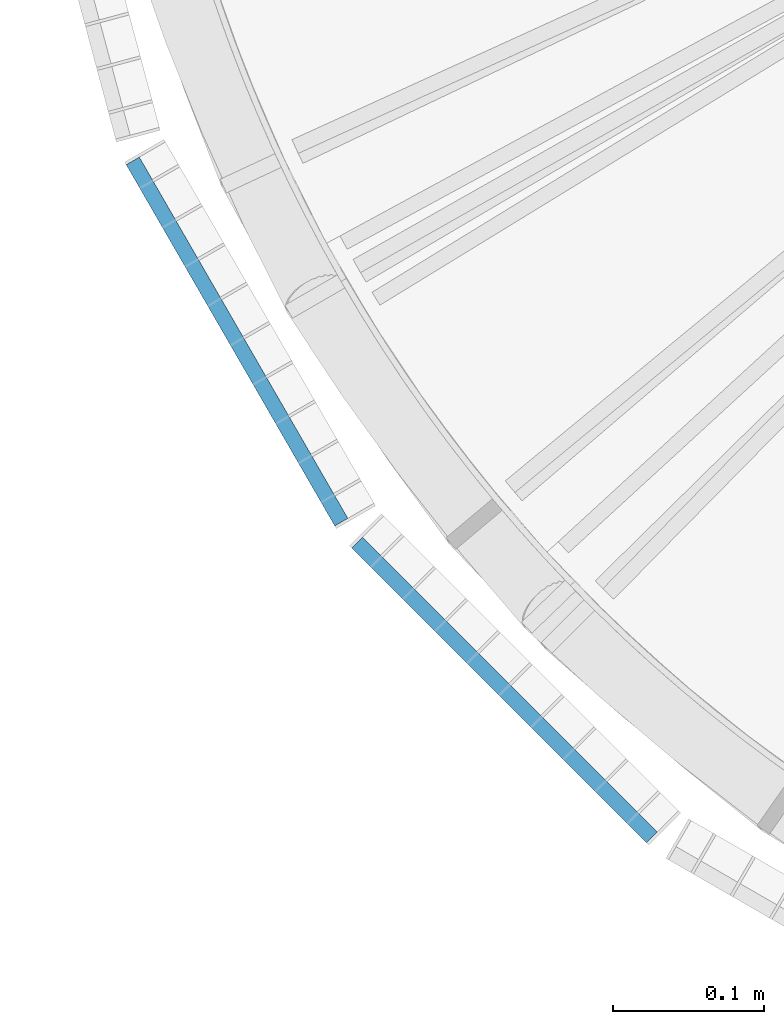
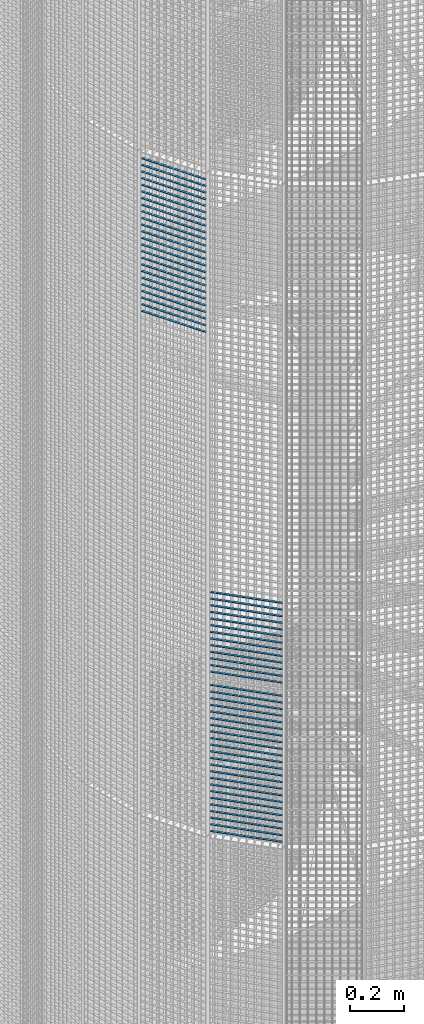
# One storey, part 109 of 1148: 60 beams, 2 elements without a shape of their own.
"""IFC2X3 building model written with IfcOpenShell, lengths in millimetres."""

from ifc_helpers import new_model, si_unit, frame, origin_with_axes, origin_2d_with_axis, place, context, subcontext, project, spatial, rectangle, extrude, material, type_object, element, aggregate, save


model = new_model("IFC2X3")

# Units and contexts
model_context = context("Model", 3, precision=1e-05, world=origin_with_axes())
body_context = subcontext(model_context, "Body", "Model", "MODEL_VIEW")
ifc_project = project(units=[si_unit("LENGTHUNIT", "METRE", prefix="MILLI"), si_unit("AREAUNIT", "SQUARE_METRE"), si_unit("VOLUMEUNIT", "CUBIC_METRE"), si_unit("MASSUNIT", "GRAM", prefix="KILO"), si_unit("TIMEUNIT", "SECOND"), si_unit("PLANEANGLEUNIT", "RADIAN"), si_unit("SOLIDANGLEUNIT", "STERADIAN"), si_unit("THERMODYNAMICTEMPERATUREUNIT", "DEGREE_CELSIUS"), si_unit("LUMINOUSINTENSITYUNIT", "LUMEN")], contexts=[model_context])

# Site, building, storey
site_placement = place(None, origin_with_axes())
site = spatial("IfcSite", under=ifc_project, at=site_placement, Name="Undefined", CompositionType="ELEMENT")
building_placement = place(site_placement, origin_with_axes())
building = spatial("IfcBuilding", under=site, at=building_placement, Name="Undefined", CompositionType="ELEMENT")
storey_placement = place(building_placement, origin_with_axes())
storey = spatial("IfcBuildingStorey", under=building, at=storey_placement, Name="Undefined", CompositionType="ELEMENT", Elevation=0.0)

# Assembly, beams
assembly_1_placement = place(storey_placement, origin_with_axes())
assembly_1 = element("IfcElementAssembly", 1, at=assembly_1_placement, inside=storey, Name="BORDURE", AssemblyPlace="NOTDEFINED", PredefinedType="NOTDEFINED")
ifc_material = material(Name="STEEL/S235JR")
beam_type = type_object("IfcBeamType", Name="PL2*10", PredefinedType="NOTDEFINED")
beam_1_placement = place(assembly_1_placement, frame((-884.927168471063, -689.771348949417, 12690.0), z_axis=(-0.70710678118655, -0.707106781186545, 0.0), x_axis=(0.707106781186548, -0.707106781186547, 0.0)))
beam_1 = element("IfcBeam", 2, at=beam_1_placement, type_object=beam_type, material=ifc_material, Name="ENTRETOISE", context=body_context, shape_type="SweptSolid", body=[
    extrude(rectangle(XDim=2.0, YDim=10.0, at=origin_2d_with_axis()), frame((275.999999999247, 9.09494701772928e-13, 1.53210777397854e-14), z_axis=(-1.0, 0.0, 0.0), x_axis=(0.0, -1.0, 0.0)), (0.0, 0.0, 1.0), 276.0),
])
beam_2_placement = place(assembly_1_placement, frame((-884.927168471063, -689.771348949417, 12750.0), z_axis=(-0.70710678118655, -0.707106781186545, 0.0), x_axis=(0.707106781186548, -0.707106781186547, 0.0)))
beam_2 = element("IfcBeam", 3, at=beam_2_placement, type_object=beam_type, material=ifc_material, Name="ENTRETOISE", context=body_context, shape_type="SweptSolid", body=[
    extrude(rectangle(XDim=2.0, YDim=10.0, at=origin_2d_with_axis()), frame((275.999999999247, 9.09494701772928e-13, 1.53210777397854e-14), z_axis=(-1.0, 0.0, 0.0), x_axis=(0.0, -1.0, 0.0)), (0.0, 0.0, 1.0), 276.0),
])
beam_3_placement = place(assembly_1_placement, frame((-884.927168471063, -689.771348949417, 12660.0), z_axis=(-0.70710678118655, -0.707106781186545, 0.0), x_axis=(0.707106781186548, -0.707106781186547, 0.0)))
beam_3 = element("IfcBeam", 4, at=beam_3_placement, type_object=beam_type, material=ifc_material, Name="ENTRETOISE", context=body_context, shape_type="SweptSolid", body=[
    extrude(rectangle(XDim=2.0, YDim=10.0, at=origin_2d_with_axis()), frame((275.999999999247, 9.09494701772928e-13, 1.53210777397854e-14), z_axis=(-1.0, 0.0, 0.0), x_axis=(0.0, -1.0, 0.0)), (0.0, 0.0, 1.0), 276.0),
])
beam_4_placement = place(assembly_1_placement, frame((-884.927168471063, -689.771348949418, 12630.0), z_axis=(-0.70710678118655, -0.707106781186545, 0.0), x_axis=(0.707106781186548, -0.707106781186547, 0.0)))
beam_4 = element("IfcBeam", 5, at=beam_4_placement, type_object=beam_type, material=ifc_material, Name="ENTRETOISE", context=body_context, shape_type="SweptSolid", body=[
    extrude(rectangle(XDim=2.0, YDim=10.0, at=origin_2d_with_axis()), frame((275.999999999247, 9.09494701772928e-13, 1.53210777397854e-14), z_axis=(-1.0, 0.0, 0.0), x_axis=(0.0, -1.0, 0.0)), (0.0, 0.0, 1.0), 276.0),
])
beam_5_placement = place(assembly_1_placement, frame((-884.927168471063, -689.771348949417, 12780.0), z_axis=(-0.70710678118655, -0.707106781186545, 0.0), x_axis=(0.707106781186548, -0.707106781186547, 0.0)))
beam_5 = element("IfcBeam", 6, at=beam_5_placement, type_object=beam_type, material=ifc_material, Name="ENTRETOISE", context=body_context, shape_type="SweptSolid", body=[
    extrude(rectangle(XDim=2.0, YDim=10.0, at=origin_2d_with_axis()), frame((275.999999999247, 9.09494701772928e-13, 1.53210777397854e-14), z_axis=(-1.0, 0.0, 0.0), x_axis=(0.0, -1.0, 0.0)), (0.0, 0.0, 1.0), 276.0),
])
beam_6_placement = place(assembly_1_placement, frame((-884.927168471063, -689.771348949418, 12600.0), z_axis=(-0.70710678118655, -0.707106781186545, 0.0), x_axis=(0.707106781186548, -0.707106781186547, 0.0)))
beam_6 = element("IfcBeam", 7, at=beam_6_placement, type_object=beam_type, material=ifc_material, Name="ENTRETOISE", context=body_context, shape_type="SweptSolid", body=[
    extrude(rectangle(XDim=2.0, YDim=10.0, at=origin_2d_with_axis()), frame((275.999999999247, 9.09494701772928e-13, 1.53210777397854e-14), z_axis=(-1.0, 0.0, 0.0), x_axis=(0.0, -1.0, 0.0)), (0.0, 0.0, 1.0), 276.0),
])
beam_7_placement = place(assembly_1_placement, frame((-884.927168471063, -689.771348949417, 12810.0), z_axis=(-0.70710678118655, -0.707106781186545, 0.0), x_axis=(0.707106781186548, -0.707106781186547, 0.0)))
beam_7 = element("IfcBeam", 8, at=beam_7_placement, type_object=beam_type, material=ifc_material, Name="ENTRETOISE", context=body_context, shape_type="SweptSolid", body=[
    extrude(rectangle(XDim=2.0, YDim=10.0, at=origin_2d_with_axis()), frame((275.999999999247, 9.09494701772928e-13, 1.53210777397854e-14), z_axis=(-1.0, 0.0, 0.0), x_axis=(0.0, -1.0, 0.0)), (0.0, 0.0, 1.0), 276.0),
])
beam_8_placement = place(assembly_1_placement, frame((-884.927168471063, -689.771348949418, 12570.0), z_axis=(-0.70710678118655, -0.707106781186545, 0.0), x_axis=(0.707106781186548, -0.707106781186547, 0.0)))
beam_8 = element("IfcBeam", 9, at=beam_8_placement, type_object=beam_type, material=ifc_material, Name="ENTRETOISE", context=body_context, shape_type="SweptSolid", body=[
    extrude(rectangle(XDim=2.0, YDim=10.0, at=origin_2d_with_axis()), frame((275.999999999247, 9.09494701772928e-13, 1.53210777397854e-14), z_axis=(-1.0, 0.0, 0.0), x_axis=(0.0, -1.0, 0.0)), (0.0, 0.0, 1.0), 276.0),
])
beam_9_placement = place(assembly_1_placement, frame((-884.927168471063, -689.771348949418, 12540.0), z_axis=(-0.70710678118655, -0.707106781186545, 0.0), x_axis=(0.707106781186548, -0.707106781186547, 0.0)))
beam_9 = element("IfcBeam", 10, at=beam_9_placement, type_object=beam_type, material=ifc_material, Name="ENTRETOISE", context=body_context, shape_type="SweptSolid", body=[
    extrude(rectangle(XDim=2.0, YDim=10.0, at=origin_2d_with_axis()), frame((275.999999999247, 9.09494701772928e-13, 1.53210777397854e-14), z_axis=(-1.0, 0.0, 0.0), x_axis=(0.0, -1.0, 0.0)), (0.0, 0.0, 1.0), 276.0),
])
beam_10_placement = place(assembly_1_placement, frame((-884.927168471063, -689.771348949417, 12840.0), z_axis=(-0.70710678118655, -0.707106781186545, 0.0), x_axis=(0.707106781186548, -0.707106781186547, 0.0)))
beam_10 = element("IfcBeam", 11, at=beam_10_placement, type_object=beam_type, material=ifc_material, Name="ENTRETOISE", context=body_context, shape_type="SweptSolid", body=[
    extrude(rectangle(XDim=2.0, YDim=10.0, at=origin_2d_with_axis()), frame((275.999999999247, 9.09494701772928e-13, 1.53210777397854e-14), z_axis=(-1.0, 0.0, 0.0), x_axis=(0.0, -1.0, 0.0)), (0.0, 0.0, 1.0), 276.0),
])
beam_11_placement = place(assembly_1_placement, frame((-884.927168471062, -689.771348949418, 12510.0), z_axis=(-0.70710678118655, -0.707106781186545, 0.0), x_axis=(0.707106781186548, -0.707106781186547, 0.0)))
beam_11 = element("IfcBeam", 12, at=beam_11_placement, type_object=beam_type, material=ifc_material, Name="ENTRETOISE", context=body_context, shape_type="SweptSolid", body=[
    extrude(rectangle(XDim=2.0, YDim=10.0, at=origin_2d_with_axis()), frame((275.999999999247, 9.09494701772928e-13, 1.53210777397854e-14), z_axis=(-1.0, 0.0, 0.0), x_axis=(0.0, -1.0, 0.0)), (0.0, 0.0, 1.0), 276.0),
])
beam_12_placement = place(assembly_1_placement, frame((-884.927168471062, -689.771348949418, 12480.0), z_axis=(-0.70710678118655, -0.707106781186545, 0.0), x_axis=(0.707106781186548, -0.707106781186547, 0.0)))
beam_12 = element("IfcBeam", 13, at=beam_12_placement, type_object=beam_type, material=ifc_material, Name="ENTRETOISE", context=body_context, shape_type="SweptSolid", body=[
    extrude(rectangle(XDim=2.0, YDim=10.0, at=origin_2d_with_axis()), frame((275.999999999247, 9.09494701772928e-13, 1.53210777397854e-14), z_axis=(-1.0, 0.0, 0.0), x_axis=(0.0, -1.0, 0.0)), (0.0, 0.0, 1.0), 276.0),
])
beam_13_placement = place(assembly_1_placement, frame((-884.927168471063, -689.771348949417, 12870.0), z_axis=(-0.70710678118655, -0.707106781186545, 0.0), x_axis=(0.707106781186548, -0.707106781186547, 0.0)))
beam_13 = element("IfcBeam", 14, at=beam_13_placement, type_object=beam_type, material=ifc_material, Name="ENTRETOISE", context=body_context, shape_type="SweptSolid", body=[
    extrude(rectangle(XDim=2.0, YDim=10.0, at=origin_2d_with_axis()), frame((275.999999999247, 9.09494701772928e-13, 1.53210777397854e-14), z_axis=(-1.0, 0.0, 0.0), x_axis=(0.0, -1.0, 0.0)), (0.0, 0.0, 1.0), 276.0),
])
beam_14_placement = place(assembly_1_placement, frame((-884.927168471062, -689.771348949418, 12450.0), z_axis=(-0.70710678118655, -0.707106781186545, 0.0), x_axis=(0.707106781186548, -0.707106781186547, 0.0)))
beam_14 = element("IfcBeam", 15, at=beam_14_placement, type_object=beam_type, material=ifc_material, Name="ENTRETOISE", context=body_context, shape_type="SweptSolid", body=[
    extrude(rectangle(XDim=2.0, YDim=10.0, at=origin_2d_with_axis()), frame((275.999999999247, 9.09494701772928e-13, 1.53210777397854e-14), z_axis=(-1.0, 0.0, 0.0), x_axis=(0.0, -1.0, 0.0)), (0.0, 0.0, 1.0), 276.0),
])
beam_15_placement = place(assembly_1_placement, frame((-884.927168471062, -689.771348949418, 12420.0), z_axis=(-0.70710678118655, -0.707106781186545, 0.0), x_axis=(0.707106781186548, -0.707106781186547, 0.0)))
beam_15 = element("IfcBeam", 16, at=beam_15_placement, type_object=beam_type, material=ifc_material, Name="ENTRETOISE", context=body_context, shape_type="SweptSolid", body=[
    extrude(rectangle(XDim=2.0, YDim=10.0, at=origin_2d_with_axis()), frame((275.999999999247, 9.09494701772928e-13, 1.53210777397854e-14), z_axis=(-1.0, 0.0, 0.0), x_axis=(0.0, -1.0, 0.0)), (0.0, 0.0, 1.0), 276.0),
])
beam_16_placement = place(assembly_1_placement, frame((-884.927168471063, -689.771348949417, 12900.0), z_axis=(-0.70710678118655, -0.707106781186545, 0.0), x_axis=(0.707106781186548, -0.707106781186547, 0.0)))
beam_16 = element("IfcBeam", 17, at=beam_16_placement, type_object=beam_type, material=ifc_material, Name="ENTRETOISE", context=body_context, shape_type="SweptSolid", body=[
    extrude(rectangle(XDim=2.0, YDim=10.0, at=origin_2d_with_axis()), frame((275.999999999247, 9.09494701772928e-13, 1.53210777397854e-14), z_axis=(-1.0, 0.0, 0.0), x_axis=(0.0, -1.0, 0.0)), (0.0, 0.0, 1.0), 276.0),
])
beam_17_placement = place(assembly_1_placement, frame((-884.927168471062, -689.771348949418, 12390.0), z_axis=(-0.70710678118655, -0.707106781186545, 0.0), x_axis=(0.707106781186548, -0.707106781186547, 0.0)))
beam_17 = element("IfcBeam", 18, at=beam_17_placement, type_object=beam_type, material=ifc_material, Name="ENTRETOISE", context=body_context, shape_type="SweptSolid", body=[
    extrude(rectangle(XDim=2.0, YDim=10.0, at=origin_2d_with_axis()), frame((275.999999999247, 9.09494701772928e-13, 1.53210777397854e-14), z_axis=(-1.0, 0.0, 0.0), x_axis=(0.0, -1.0, 0.0)), (0.0, 0.0, 1.0), 276.0),
])
beam_18_placement = place(assembly_1_placement, frame((-884.927168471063, -689.771348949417, 12930.0), z_axis=(-0.70710678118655, -0.707106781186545, 0.0), x_axis=(0.707106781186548, -0.707106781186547, 0.0)))
beam_18 = element("IfcBeam", 19, at=beam_18_placement, type_object=beam_type, material=ifc_material, Name="ENTRETOISE", context=body_context, shape_type="SweptSolid", body=[
    extrude(rectangle(XDim=2.0, YDim=10.0, at=origin_2d_with_axis()), frame((275.999999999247, 9.09494701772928e-13, 1.53210777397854e-14), z_axis=(-1.0, 0.0, 0.0), x_axis=(0.0, -1.0, 0.0)), (0.0, 0.0, 1.0), 276.0),
])
beam_19_placement = place(assembly_1_placement, frame((-884.927168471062, -689.771348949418, 12360.0), z_axis=(-0.70710678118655, -0.707106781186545, 0.0), x_axis=(0.707106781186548, -0.707106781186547, 0.0)))
beam_19 = element("IfcBeam", 20, at=beam_19_placement, type_object=beam_type, material=ifc_material, Name="ENTRETOISE", context=body_context, shape_type="SweptSolid", body=[
    extrude(rectangle(XDim=2.0, YDim=10.0, at=origin_2d_with_axis()), frame((275.999999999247, 9.09494701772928e-13, 1.53210777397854e-14), z_axis=(-1.0, 0.0, 0.0), x_axis=(0.0, -1.0, 0.0)), (0.0, 0.0, 1.0), 276.0),
])
beam_20_placement = place(assembly_1_placement, frame((-884.927168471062, -689.771348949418, 12330.0), z_axis=(-0.70710678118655, -0.707106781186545, 0.0), x_axis=(0.707106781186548, -0.707106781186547, 0.0)))
beam_20 = element("IfcBeam", 21, at=beam_20_placement, type_object=beam_type, material=ifc_material, Name="ENTRETOISE", context=body_context, shape_type="SweptSolid", body=[
    extrude(rectangle(XDim=2.0, YDim=10.0, at=origin_2d_with_axis()), frame((275.999999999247, 9.09494701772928e-13, 1.53210777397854e-14), z_axis=(-1.0, 0.0, 0.0), x_axis=(0.0, -1.0, 0.0)), (0.0, 0.0, 1.0), 276.0),
])
beam_21_placement = place(assembly_1_placement, frame((-884.927168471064, -689.771348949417, 12960.0), z_axis=(-0.70710678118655, -0.707106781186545, 0.0), x_axis=(0.707106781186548, -0.707106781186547, 0.0)))
beam_21 = element("IfcBeam", 22, at=beam_21_placement, type_object=beam_type, material=ifc_material, Name="ENTRETOISE", context=body_context, shape_type="SweptSolid", body=[
    extrude(rectangle(XDim=2.0, YDim=10.0, at=origin_2d_with_axis()), frame((275.999999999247, 9.09494701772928e-13, 1.53210777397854e-14), z_axis=(-1.0, 0.0, 0.0), x_axis=(0.0, -1.0, 0.0)), (0.0, 0.0, 1.0), 276.0),
])
beam_22_placement = place(assembly_1_placement, frame((-884.927168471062, -689.771348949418, 12300.0), z_axis=(-0.70710678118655, -0.707106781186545, 0.0), x_axis=(0.707106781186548, -0.707106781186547, 0.0)))
beam_22 = element("IfcBeam", 23, at=beam_22_placement, type_object=beam_type, material=ifc_material, Name="ENTRETOISE", context=body_context, shape_type="SweptSolid", body=[
    extrude(rectangle(XDim=2.0, YDim=10.0, at=origin_2d_with_axis()), frame((275.999999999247, 9.09494701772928e-13, 1.53210777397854e-14), z_axis=(-1.0, 0.0, 0.0), x_axis=(0.0, -1.0, 0.0)), (0.0, 0.0, 1.0), 276.0),
])
beam_23_placement = place(assembly_1_placement, frame((-884.927168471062, -689.771348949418, 12270.0), z_axis=(-0.70710678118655, -0.707106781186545, 0.0), x_axis=(0.707106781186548, -0.707106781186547, 0.0)))
beam_23 = element("IfcBeam", 24, at=beam_23_placement, type_object=beam_type, material=ifc_material, Name="ENTRETOISE", context=body_context, shape_type="SweptSolid", body=[
    extrude(rectangle(XDim=2.0, YDim=10.0, at=origin_2d_with_axis()), frame((275.999999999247, 9.09494701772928e-13, 1.53210777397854e-14), z_axis=(-1.0, 0.0, 0.0), x_axis=(0.0, -1.0, 0.0)), (0.0, 0.0, 1.0), 276.0),
])
beam_24_placement = place(assembly_1_placement, frame((-884.927168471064, -689.771348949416, 12990.0), z_axis=(-0.70710678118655, -0.707106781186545, 0.0), x_axis=(0.707106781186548, -0.707106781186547, 0.0)))
beam_24 = element("IfcBeam", 25, at=beam_24_placement, type_object=beam_type, material=ifc_material, Name="ENTRETOISE", context=body_context, shape_type="SweptSolid", body=[
    extrude(rectangle(XDim=2.0, YDim=10.0, at=origin_2d_with_axis()), frame((275.999999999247, 9.09494701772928e-13, 1.53210777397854e-14), z_axis=(-1.0, 0.0, 0.0), x_axis=(0.0, -1.0, 0.0)), (0.0, 0.0, 1.0), 276.0),
])
beam_25_placement = place(assembly_1_placement, frame((-884.927168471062, -689.771348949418, 12240.0), z_axis=(-0.70710678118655, -0.707106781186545, 0.0), x_axis=(0.707106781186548, -0.707106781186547, 0.0)))
beam_25 = element("IfcBeam", 26, at=beam_25_placement, type_object=beam_type, material=ifc_material, Name="ENTRETOISE", context=body_context, shape_type="SweptSolid", body=[
    extrude(rectangle(XDim=2.0, YDim=10.0, at=origin_2d_with_axis()), frame((275.999999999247, 9.09494701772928e-13, 1.53210777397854e-14), z_axis=(-1.0, 0.0, 0.0), x_axis=(0.0, -1.0, 0.0)), (0.0, 0.0, 1.0), 276.0),
])
beam_26_placement = place(assembly_1_placement, frame((-884.927168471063, -689.771348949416, 13020.0), z_axis=(-0.70710678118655, -0.707106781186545, 0.0), x_axis=(0.707106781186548, -0.707106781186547, 0.0)))
beam_26 = element("IfcBeam", 27, at=beam_26_placement, type_object=beam_type, material=ifc_material, Name="ENTRETOISE", context=body_context, shape_type="SweptSolid", body=[
    extrude(rectangle(XDim=2.0, YDim=10.0, at=origin_2d_with_axis()), frame((275.999999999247, 9.09494701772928e-13, 1.53210777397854e-14), z_axis=(-1.0, 0.0, 0.0), x_axis=(0.0, -1.0, 0.0)), (0.0, 0.0, 1.0), 276.0),
])
beam_27_placement = place(assembly_1_placement, frame((-884.927168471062, -689.771348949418, 12210.0), z_axis=(-0.70710678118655, -0.707106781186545, 0.0), x_axis=(0.707106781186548, -0.707106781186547, 0.0)))
beam_27 = element("IfcBeam", 28, at=beam_27_placement, type_object=beam_type, material=ifc_material, Name="ENTRETOISE", context=body_context, shape_type="SweptSolid", body=[
    extrude(rectangle(XDim=2.0, YDim=10.0, at=origin_2d_with_axis()), frame((275.999999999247, 9.09494701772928e-13, 1.53210777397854e-14), z_axis=(-1.0, 0.0, 0.0), x_axis=(0.0, -1.0, 0.0)), (0.0, 0.0, 1.0), 276.0),
])
beam_28_placement = place(assembly_1_placement, frame((-884.927168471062, -689.771348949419, 12180.0), z_axis=(-0.70710678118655, -0.707106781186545, 0.0), x_axis=(0.707106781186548, -0.707106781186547, 0.0)))
beam_28 = element("IfcBeam", 29, at=beam_28_placement, type_object=beam_type, material=ifc_material, Name="ENTRETOISE", context=body_context, shape_type="SweptSolid", body=[
    extrude(rectangle(XDim=2.0, YDim=10.0, at=origin_2d_with_axis()), frame((275.999999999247, 9.09494701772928e-13, 1.53210777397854e-14), z_axis=(-1.0, 0.0, 0.0), x_axis=(0.0, -1.0, 0.0)), (0.0, 0.0, 1.0), 276.0),
])
beam_29_placement = place(assembly_1_placement, frame((-884.927168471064, -689.771348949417, 13050.0), z_axis=(-0.70710678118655, -0.707106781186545, 0.0), x_axis=(0.707106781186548, -0.707106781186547, 0.0)))
beam_29 = element("IfcBeam", 30, at=beam_29_placement, type_object=beam_type, material=ifc_material, Name="ENTRETOISE", context=body_context, shape_type="SweptSolid", body=[
    extrude(rectangle(XDim=2.0, YDim=10.0, at=origin_2d_with_axis()), frame((275.999999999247, 9.09494701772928e-13, 1.53210777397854e-14), z_axis=(-1.0, 0.0, 0.0), x_axis=(0.0, -1.0, 0.0)), (0.0, 0.0, 1.0), 276.0),
])
beam_30_placement = place(assembly_1_placement, frame((-884.927168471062, -689.771348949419, 12150.0), z_axis=(-0.70710678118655, -0.707106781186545, 0.0), x_axis=(0.707106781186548, -0.707106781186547, 0.0)))
beam_30 = element("IfcBeam", 31, at=beam_30_placement, type_object=beam_type, material=ifc_material, Name="ENTRETOISE", context=body_context, shape_type="SweptSolid", body=[
    extrude(rectangle(XDim=2.0, YDim=10.0, at=origin_2d_with_axis()), frame((275.999999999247, 9.09494701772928e-13, 1.53210777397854e-14), z_axis=(-1.0, 0.0, 0.0), x_axis=(0.0, -1.0, 0.0)), (0.0, 0.0, 1.0), 276.0),
])
beam_31_placement = place(assembly_1_placement, frame((-884.927168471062, -689.771348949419, 12120.0), z_axis=(-0.70710678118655, -0.707106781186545, 0.0), x_axis=(0.707106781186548, -0.707106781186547, 0.0)))
beam_31 = element("IfcBeam", 32, at=beam_31_placement, type_object=beam_type, material=ifc_material, Name="ENTRETOISE", context=body_context, shape_type="SweptSolid", body=[
    extrude(rectangle(XDim=2.0, YDim=10.0, at=origin_2d_with_axis()), frame((275.999999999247, 9.09494701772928e-13, 1.53210777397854e-14), z_axis=(-1.0, 0.0, 0.0), x_axis=(0.0, -1.0, 0.0)), (0.0, 0.0, 1.0), 276.0),
])
beam_32_placement = place(assembly_1_placement, frame((-884.927168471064, -689.771348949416, 13080.0), z_axis=(-0.70710678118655, -0.707106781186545, 0.0), x_axis=(0.707106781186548, -0.707106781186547, 0.0)))
beam_32 = element("IfcBeam", 33, at=beam_32_placement, type_object=beam_type, material=ifc_material, Name="ENTRETOISE", context=body_context, shape_type="SweptSolid", body=[
    extrude(rectangle(XDim=2.0, YDim=10.0, at=origin_2d_with_axis()), frame((275.999999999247, 9.09494701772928e-13, 1.53210777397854e-14), z_axis=(-1.0, 0.0, 0.0), x_axis=(0.0, -1.0, 0.0)), (0.0, 0.0, 1.0), 276.0),
])
beam_33_placement = place(assembly_1_placement, frame((-884.927168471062, -689.771348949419, 12090.0), z_axis=(-0.70710678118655, -0.707106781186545, 0.0), x_axis=(0.707106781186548, -0.707106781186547, 0.0)))
beam_33 = element("IfcBeam", 34, at=beam_33_placement, type_object=beam_type, material=ifc_material, Name="ENTRETOISE", context=body_context, shape_type="SweptSolid", body=[
    extrude(rectangle(XDim=2.0, YDim=10.0, at=origin_2d_with_axis()), frame((275.999999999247, 9.09494701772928e-13, 1.53210777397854e-14), z_axis=(-1.0, 0.0, 0.0), x_axis=(0.0, -1.0, 0.0)), (0.0, 0.0, 1.0), 276.0),
])
beam_34_placement = place(assembly_1_placement, frame((-884.927168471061, -689.771348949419, 12060.0), z_axis=(-0.70710678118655, -0.707106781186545, 0.0), x_axis=(0.707106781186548, -0.707106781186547, 0.0)))
beam_34 = element("IfcBeam", 35, at=beam_34_placement, type_object=beam_type, material=ifc_material, Name="ENTRETOISE", context=body_context, shape_type="SweptSolid", body=[
    extrude(rectangle(XDim=2.0, YDim=10.0, at=origin_2d_with_axis()), frame((275.999999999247, 9.09494701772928e-13, 1.53210777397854e-14), z_axis=(-1.0, 0.0, 0.0), x_axis=(0.0, -1.0, 0.0)), (0.0, 0.0, 1.0), 276.0),
])
beam_35_placement = place(assembly_1_placement, frame((-884.927168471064, -689.771348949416, 13110.0), z_axis=(-0.70710678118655, -0.707106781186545, 0.0), x_axis=(0.707106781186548, -0.707106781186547, 0.0)))
beam_35 = element("IfcBeam", 36, at=beam_35_placement, type_object=beam_type, material=ifc_material, Name="ENTRETOISE", context=body_context, shape_type="SweptSolid", body=[
    extrude(rectangle(XDim=2.0, YDim=10.0, at=origin_2d_with_axis()), frame((275.999999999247, 9.09494701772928e-13, 1.53210777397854e-14), z_axis=(-1.0, 0.0, 0.0), x_axis=(0.0, -1.0, 0.0)), (0.0, 0.0, 1.0), 276.0),
])
beam_36_placement = place(assembly_1_placement, frame((-884.92716847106, -689.771348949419, 12030.0), z_axis=(-0.70710678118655, -0.707106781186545, 0.0), x_axis=(0.707106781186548, -0.707106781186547, 0.0)))
beam_36 = element("IfcBeam", 37, at=beam_36_placement, type_object=beam_type, material=ifc_material, Name="ENTRETOISE", context=body_context, shape_type="SweptSolid", body=[
    extrude(rectangle(XDim=2.0, YDim=10.0, at=origin_2d_with_axis()), frame((275.999999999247, 9.09494701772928e-13, 1.53210777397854e-14), z_axis=(-1.0, 0.0, 0.0), x_axis=(0.0, -1.0, 0.0)), (0.0, 0.0, 1.0), 276.0),
])
aggregate(assembly_1, [beam_1, beam_2, beam_3, beam_4, beam_5, beam_6, beam_7, beam_8, beam_9, beam_10, beam_11, beam_12, beam_13, beam_14, beam_15, beam_16, beam_17, beam_18, beam_19, beam_20, beam_21, beam_22, beam_23, beam_24, beam_25, beam_26, beam_27, beam_28, beam_29, beam_30, beam_31, beam_32, beam_33, beam_34, beam_35, beam_36])

assembly_2_placement = place(storey_placement, origin_with_axes())
assembly_2 = element("IfcElementAssembly", 38, at=assembly_2_placement, inside=storey, Name="BORDURE", AssemblyPlace="NOTDEFINED", PredefinedType="NOTDEFINED")
beam_37_placement = place(assembly_2_placement, frame((-1033.29996828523, -437.231955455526, 14970.0), z_axis=(-0.866025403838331, -0.499999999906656, 0.0), x_axis=(0.499999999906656, -0.866025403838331, 0.0)))
beam_37 = element("IfcBeam", 39, at=beam_37_placement, type_object=beam_type, material=ifc_material, Name="ENTRETOISE", context=body_context, shape_type="SweptSolid", body=[
    extrude(rectangle(XDim=2.0, YDim=10.0, at=origin_2d_with_axis()), frame((275.999999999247, 9.09494701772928e-13, 1.53210777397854e-14), z_axis=(-1.0, 0.0, 0.0), x_axis=(0.0, -1.0, 0.0)), (0.0, 0.0, 1.0), 276.0),
])
beam_38_placement = place(assembly_2_placement, frame((-1033.29996828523, -437.231955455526, 14940.0), z_axis=(-0.866025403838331, -0.499999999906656, 0.0), x_axis=(0.499999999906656, -0.866025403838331, 0.0)))
beam_38 = element("IfcBeam", 40, at=beam_38_placement, type_object=beam_type, material=ifc_material, Name="ENTRETOISE", context=body_context, shape_type="SweptSolid", body=[
    extrude(rectangle(XDim=2.0, YDim=10.0, at=origin_2d_with_axis()), frame((275.999999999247, 9.09494701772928e-13, 1.53210777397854e-14), z_axis=(-1.0, 0.0, 0.0), x_axis=(0.0, -1.0, 0.0)), (0.0, 0.0, 1.0), 276.0),
])
beam_39_placement = place(assembly_2_placement, frame((-1033.29996828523, -437.231955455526, 14910.0), z_axis=(-0.866025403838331, -0.499999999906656, 0.0), x_axis=(0.499999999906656, -0.866025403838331, 0.0)))
beam_39 = element("IfcBeam", 41, at=beam_39_placement, type_object=beam_type, material=ifc_material, Name="ENTRETOISE", context=body_context, shape_type="SweptSolid", body=[
    extrude(rectangle(XDim=2.0, YDim=10.0, at=origin_2d_with_axis()), frame((275.999999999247, 9.09494701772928e-13, 1.53210777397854e-14), z_axis=(-1.0, 0.0, 0.0), x_axis=(0.0, -1.0, 0.0)), (0.0, 0.0, 1.0), 276.0),
])
beam_40_placement = place(assembly_2_placement, frame((-1033.29996828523, -437.231955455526, 14880.0), z_axis=(-0.866025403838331, -0.499999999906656, 0.0), x_axis=(0.499999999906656, -0.866025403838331, 0.0)))
beam_40 = element("IfcBeam", 42, at=beam_40_placement, type_object=beam_type, material=ifc_material, Name="ENTRETOISE", context=body_context, shape_type="SweptSolid", body=[
    extrude(rectangle(XDim=2.0, YDim=10.0, at=origin_2d_with_axis()), frame((275.999999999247, 9.09494701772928e-13, 1.53210777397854e-14), z_axis=(-1.0, 0.0, 0.0), x_axis=(0.0, -1.0, 0.0)), (0.0, 0.0, 1.0), 276.0),
])
beam_41_placement = place(assembly_2_placement, frame((-1033.29996828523, -437.231955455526, 14850.0), z_axis=(-0.866025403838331, -0.499999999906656, 0.0), x_axis=(0.499999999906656, -0.866025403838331, 0.0)))
beam_41 = element("IfcBeam", 43, at=beam_41_placement, type_object=beam_type, material=ifc_material, Name="ENTRETOISE", context=body_context, shape_type="SweptSolid", body=[
    extrude(rectangle(XDim=2.0, YDim=10.0, at=origin_2d_with_axis()), frame((275.999999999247, 9.09494701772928e-13, 1.53210777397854e-14), z_axis=(-1.0, 0.0, 0.0), x_axis=(0.0, -1.0, 0.0)), (0.0, 0.0, 1.0), 276.0),
])
beam_42_placement = place(assembly_2_placement, frame((-1033.29996828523, -437.231955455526, 14820.0), z_axis=(-0.866025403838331, -0.499999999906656, 0.0), x_axis=(0.499999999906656, -0.866025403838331, 0.0)))
beam_42 = element("IfcBeam", 44, at=beam_42_placement, type_object=beam_type, material=ifc_material, Name="ENTRETOISE", context=body_context, shape_type="SweptSolid", body=[
    extrude(rectangle(XDim=2.0, YDim=10.0, at=origin_2d_with_axis()), frame((275.999999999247, 9.09494701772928e-13, 1.53210777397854e-14), z_axis=(-1.0, 0.0, 0.0), x_axis=(0.0, -1.0, 0.0)), (0.0, 0.0, 1.0), 276.0),
])
beam_43_placement = place(assembly_2_placement, frame((-1033.29996828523, -437.231955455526, 14790.0), z_axis=(-0.866025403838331, -0.499999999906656, 0.0), x_axis=(0.499999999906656, -0.866025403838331, 0.0)))
beam_43 = element("IfcBeam", 45, at=beam_43_placement, type_object=beam_type, material=ifc_material, Name="ENTRETOISE", context=body_context, shape_type="SweptSolid", body=[
    extrude(rectangle(XDim=2.0, YDim=10.0, at=origin_2d_with_axis()), frame((275.999999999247, 9.09494701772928e-13, 1.53210777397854e-14), z_axis=(-1.0, 0.0, 0.0), x_axis=(0.0, -1.0, 0.0)), (0.0, 0.0, 1.0), 276.0),
])
beam_44_placement = place(assembly_2_placement, frame((-1033.29996828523, -437.231955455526, 14760.0), z_axis=(-0.866025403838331, -0.499999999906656, 0.0), x_axis=(0.499999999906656, -0.866025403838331, 0.0)))
beam_44 = element("IfcBeam", 46, at=beam_44_placement, type_object=beam_type, material=ifc_material, Name="ENTRETOISE", context=body_context, shape_type="SweptSolid", body=[
    extrude(rectangle(XDim=2.0, YDim=10.0, at=origin_2d_with_axis()), frame((275.999999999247, 9.09494701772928e-13, 1.53210777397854e-14), z_axis=(-1.0, 0.0, 0.0), x_axis=(0.0, -1.0, 0.0)), (0.0, 0.0, 1.0), 276.0),
])
beam_45_placement = place(assembly_2_placement, frame((-1033.29996828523, -437.231955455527, 14730.0), z_axis=(-0.866025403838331, -0.499999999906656, 0.0), x_axis=(0.499999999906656, -0.866025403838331, 0.0)))
beam_45 = element("IfcBeam", 47, at=beam_45_placement, type_object=beam_type, material=ifc_material, Name="ENTRETOISE", context=body_context, shape_type="SweptSolid", body=[
    extrude(rectangle(XDim=2.0, YDim=10.0, at=origin_2d_with_axis()), frame((275.999999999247, 9.09494701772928e-13, 1.53210777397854e-14), z_axis=(-1.0, 0.0, 0.0), x_axis=(0.0, -1.0, 0.0)), (0.0, 0.0, 1.0), 276.0),
])
beam_46_placement = place(assembly_2_placement, frame((-1033.29996828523, -437.231955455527, 14700.0), z_axis=(-0.866025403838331, -0.499999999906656, 0.0), x_axis=(0.499999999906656, -0.866025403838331, 0.0)))
beam_46 = element("IfcBeam", 48, at=beam_46_placement, type_object=beam_type, material=ifc_material, Name="ENTRETOISE", context=body_context, shape_type="SweptSolid", body=[
    extrude(rectangle(XDim=2.0, YDim=10.0, at=origin_2d_with_axis()), frame((275.999999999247, 9.09494701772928e-13, 1.53210777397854e-14), z_axis=(-1.0, 0.0, 0.0), x_axis=(0.0, -1.0, 0.0)), (0.0, 0.0, 1.0), 276.0),
])
beam_47_placement = place(assembly_2_placement, frame((-1033.29996828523, -437.231955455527, 14670.0), z_axis=(-0.866025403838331, -0.499999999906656, 0.0), x_axis=(0.499999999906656, -0.866025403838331, 0.0)))
beam_47 = element("IfcBeam", 49, at=beam_47_placement, type_object=beam_type, material=ifc_material, Name="ENTRETOISE", context=body_context, shape_type="SweptSolid", body=[
    extrude(rectangle(XDim=2.0, YDim=10.0, at=origin_2d_with_axis()), frame((275.999999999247, 9.09494701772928e-13, 1.53210777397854e-14), z_axis=(-1.0, 0.0, 0.0), x_axis=(0.0, -1.0, 0.0)), (0.0, 0.0, 1.0), 276.0),
])
beam_48_placement = place(assembly_2_placement, frame((-1033.29996828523, -437.231955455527, 14640.0), z_axis=(-0.866025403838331, -0.499999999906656, 0.0), x_axis=(0.499999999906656, -0.866025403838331, 0.0)))
beam_48 = element("IfcBeam", 50, at=beam_48_placement, type_object=beam_type, material=ifc_material, Name="ENTRETOISE", context=body_context, shape_type="SweptSolid", body=[
    extrude(rectangle(XDim=2.0, YDim=10.0, at=origin_2d_with_axis()), frame((275.999999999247, 9.09494701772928e-13, 1.53210777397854e-14), z_axis=(-1.0, 0.0, 0.0), x_axis=(0.0, -1.0, 0.0)), (0.0, 0.0, 1.0), 276.0),
])
beam_49_placement = place(assembly_2_placement, frame((-1033.29996828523, -437.231955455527, 14610.0), z_axis=(-0.866025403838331, -0.499999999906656, 0.0), x_axis=(0.499999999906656, -0.866025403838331, 0.0)))
beam_49 = element("IfcBeam", 51, at=beam_49_placement, type_object=beam_type, material=ifc_material, Name="ENTRETOISE", context=body_context, shape_type="SweptSolid", body=[
    extrude(rectangle(XDim=2.0, YDim=10.0, at=origin_2d_with_axis()), frame((275.999999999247, 9.09494701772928e-13, 1.53210777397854e-14), z_axis=(-1.0, 0.0, 0.0), x_axis=(0.0, -1.0, 0.0)), (0.0, 0.0, 1.0), 276.0),
])
beam_50_placement = place(assembly_2_placement, frame((-1033.29996828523, -437.231955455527, 14580.0), z_axis=(-0.866025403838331, -0.499999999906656, 0.0), x_axis=(0.499999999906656, -0.866025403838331, 0.0)))
beam_50 = element("IfcBeam", 52, at=beam_50_placement, type_object=beam_type, material=ifc_material, Name="ENTRETOISE", context=body_context, shape_type="SweptSolid", body=[
    extrude(rectangle(XDim=2.0, YDim=10.0, at=origin_2d_with_axis()), frame((275.999999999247, 9.09494701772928e-13, 1.53210777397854e-14), z_axis=(-1.0, 0.0, 0.0), x_axis=(0.0, -1.0, 0.0)), (0.0, 0.0, 1.0), 276.0),
])
beam_51_placement = place(assembly_2_placement, frame((-1033.29996828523, -437.231955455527, 14550.0), z_axis=(-0.866025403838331, -0.499999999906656, 0.0), x_axis=(0.499999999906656, -0.866025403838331, 0.0)))
beam_51 = element("IfcBeam", 53, at=beam_51_placement, type_object=beam_type, material=ifc_material, Name="ENTRETOISE", context=body_context, shape_type="SweptSolid", body=[
    extrude(rectangle(XDim=2.0, YDim=10.0, at=origin_2d_with_axis()), frame((275.999999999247, 9.09494701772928e-13, 1.53210777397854e-14), z_axis=(-1.0, 0.0, 0.0), x_axis=(0.0, -1.0, 0.0)), (0.0, 0.0, 1.0), 276.0),
])
beam_52_placement = place(assembly_2_placement, frame((-1033.29996828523, -437.231955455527, 14520.0), z_axis=(-0.866025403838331, -0.499999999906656, 0.0), x_axis=(0.499999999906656, -0.866025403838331, 0.0)))
beam_52 = element("IfcBeam", 54, at=beam_52_placement, type_object=beam_type, material=ifc_material, Name="ENTRETOISE", context=body_context, shape_type="SweptSolid", body=[
    extrude(rectangle(XDim=2.0, YDim=10.0, at=origin_2d_with_axis()), frame((275.999999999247, 9.09494701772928e-13, 1.53210777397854e-14), z_axis=(-1.0, 0.0, 0.0), x_axis=(0.0, -1.0, 0.0)), (0.0, 0.0, 1.0), 276.0),
])
beam_53_placement = place(assembly_2_placement, frame((-1033.29996828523, -437.231955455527, 14490.0), z_axis=(-0.866025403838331, -0.499999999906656, 0.0), x_axis=(0.499999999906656, -0.866025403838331, 0.0)))
beam_53 = element("IfcBeam", 55, at=beam_53_placement, type_object=beam_type, material=ifc_material, Name="ENTRETOISE", context=body_context, shape_type="SweptSolid", body=[
    extrude(rectangle(XDim=2.0, YDim=10.0, at=origin_2d_with_axis()), frame((275.999999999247, 9.09494701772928e-13, 1.53210777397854e-14), z_axis=(-1.0, 0.0, 0.0), x_axis=(0.0, -1.0, 0.0)), (0.0, 0.0, 1.0), 276.0),
])
beam_54_placement = place(assembly_2_placement, frame((-1033.29996828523, -437.231955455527, 14460.0), z_axis=(-0.866025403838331, -0.499999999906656, 0.0), x_axis=(0.499999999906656, -0.866025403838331, 0.0)))
beam_54 = element("IfcBeam", 56, at=beam_54_placement, type_object=beam_type, material=ifc_material, Name="ENTRETOISE", context=body_context, shape_type="SweptSolid", body=[
    extrude(rectangle(XDim=2.0, YDim=10.0, at=origin_2d_with_axis()), frame((275.999999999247, 9.09494701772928e-13, 1.53210777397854e-14), z_axis=(-1.0, 0.0, 0.0), x_axis=(0.0, -1.0, 0.0)), (0.0, 0.0, 1.0), 276.0),
])
beam_55_placement = place(assembly_2_placement, frame((-1033.29996828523, -437.231955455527, 14430.0), z_axis=(-0.866025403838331, -0.499999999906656, 0.0), x_axis=(0.499999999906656, -0.866025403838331, 0.0)))
beam_55 = element("IfcBeam", 57, at=beam_55_placement, type_object=beam_type, material=ifc_material, Name="ENTRETOISE", context=body_context, shape_type="SweptSolid", body=[
    extrude(rectangle(XDim=2.0, YDim=10.0, at=origin_2d_with_axis()), frame((275.999999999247, 9.09494701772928e-13, 1.53210777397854e-14), z_axis=(-1.0, 0.0, 0.0), x_axis=(0.0, -1.0, 0.0)), (0.0, 0.0, 1.0), 276.0),
])
beam_56_placement = place(assembly_2_placement, frame((-1033.29996828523, -437.231955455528, 14400.0), z_axis=(-0.866025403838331, -0.499999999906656, 0.0), x_axis=(0.499999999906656, -0.866025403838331, 0.0)))
beam_56 = element("IfcBeam", 58, at=beam_56_placement, type_object=beam_type, material=ifc_material, Name="ENTRETOISE", context=body_context, shape_type="SweptSolid", body=[
    extrude(rectangle(XDim=2.0, YDim=10.0, at=origin_2d_with_axis()), frame((275.999999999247, 9.09494701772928e-13, 1.53210777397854e-14), z_axis=(-1.0, 0.0, 0.0), x_axis=(0.0, -1.0, 0.0)), (0.0, 0.0, 1.0), 276.0),
])
beam_57_placement = place(assembly_2_placement, frame((-1033.29996828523, -437.231955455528, 14370.0), z_axis=(-0.866025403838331, -0.499999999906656, 0.0), x_axis=(0.499999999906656, -0.866025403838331, 0.0)))
beam_57 = element("IfcBeam", 59, at=beam_57_placement, type_object=beam_type, material=ifc_material, Name="ENTRETOISE", context=body_context, shape_type="SweptSolid", body=[
    extrude(rectangle(XDim=2.0, YDim=10.0, at=origin_2d_with_axis()), frame((275.999999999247, 9.09494701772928e-13, 1.53210777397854e-14), z_axis=(-1.0, 0.0, 0.0), x_axis=(0.0, -1.0, 0.0)), (0.0, 0.0, 1.0), 276.0),
])
beam_58_placement = place(assembly_2_placement, frame((-1033.29996828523, -437.231955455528, 14340.0), z_axis=(-0.866025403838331, -0.499999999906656, 0.0), x_axis=(0.499999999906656, -0.866025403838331, 0.0)))
beam_58 = element("IfcBeam", 60, at=beam_58_placement, type_object=beam_type, material=ifc_material, Name="ENTRETOISE", context=body_context, shape_type="SweptSolid", body=[
    extrude(rectangle(XDim=2.0, YDim=10.0, at=origin_2d_with_axis()), frame((275.999999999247, 9.09494701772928e-13, 1.53210777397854e-14), z_axis=(-1.0, 0.0, 0.0), x_axis=(0.0, -1.0, 0.0)), (0.0, 0.0, 1.0), 276.0),
])
beam_59_placement = place(assembly_2_placement, frame((-1033.29996828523, -437.231955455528, 14310.0), z_axis=(-0.866025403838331, -0.499999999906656, 0.0), x_axis=(0.499999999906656, -0.866025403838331, 0.0)))
beam_59 = element("IfcBeam", 61, at=beam_59_placement, type_object=beam_type, material=ifc_material, Name="ENTRETOISE", context=body_context, shape_type="SweptSolid", body=[
    extrude(rectangle(XDim=2.0, YDim=10.0, at=origin_2d_with_axis()), frame((275.999999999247, 9.09494701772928e-13, 1.53210777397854e-14), z_axis=(-1.0, 0.0, 0.0), x_axis=(0.0, -1.0, 0.0)), (0.0, 0.0, 1.0), 276.0),
])
beam_60_placement = place(assembly_2_placement, frame((-1033.29996828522, -437.231955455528, 14280.0), z_axis=(-0.866025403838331, -0.499999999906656, 0.0), x_axis=(0.499999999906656, -0.866025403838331, 0.0)))
beam_60 = element("IfcBeam", 62, at=beam_60_placement, type_object=beam_type, material=ifc_material, Name="ENTRETOISE", context=body_context, shape_type="SweptSolid", body=[
    extrude(rectangle(XDim=2.0, YDim=10.0, at=origin_2d_with_axis()), frame((275.999999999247, 9.09494701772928e-13, 1.53210777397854e-14), z_axis=(-1.0, 0.0, 0.0), x_axis=(0.0, -1.0, 0.0)), (0.0, 0.0, 1.0), 276.0),
])
aggregate(assembly_2, [beam_37, beam_38, beam_39, beam_40, beam_41, beam_42, beam_43, beam_44, beam_45, beam_46, beam_47, beam_48, beam_49, beam_50, beam_51, beam_52, beam_53, beam_54, beam_55, beam_56, beam_57, beam_58, beam_59, beam_60])

save(model, "model.ifc")
